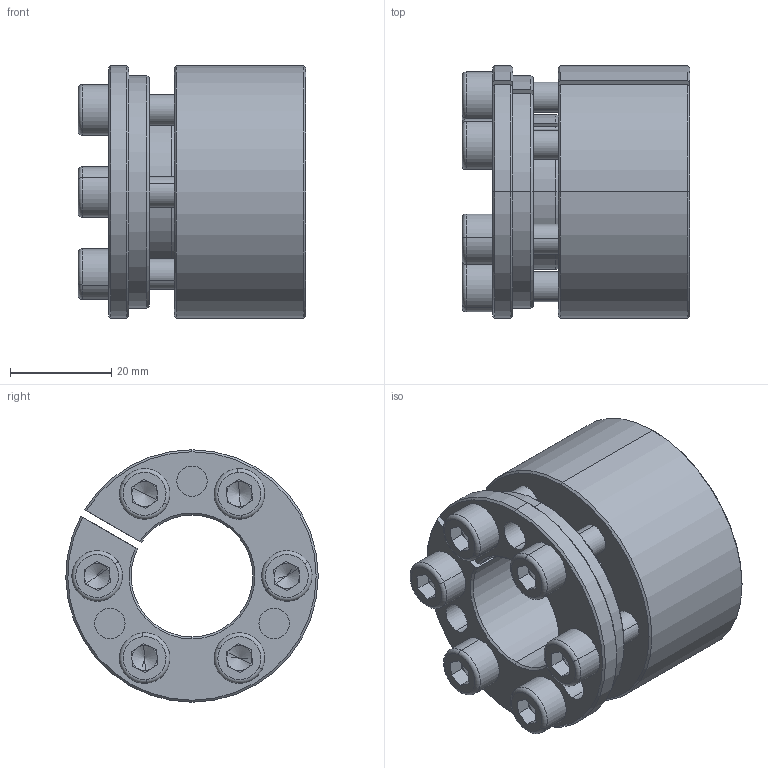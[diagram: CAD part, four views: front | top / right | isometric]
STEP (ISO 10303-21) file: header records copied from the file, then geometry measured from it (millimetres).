
FILE_DESCRIPTION (( 'STEP AP214' ), '1' );
FILE_NAME ('PL-H2 24-50.STEP', '2022-07-25T01:51:30', ( '' ), ( '' ), 'SwSTEP 2.0', 'SolidWorks 2022', '' );
FILE_SCHEMA (( 'AUTOMOTIVE_DESIGN' ));
Length unit declared in the file: millimetre
Products named in the file (1): PL-H2 24-50
Bounding box: 45 x 49.91 x 49.92 mm (x, y, z)
Volume: 49910.5 mm3; surface area: 20249.5 mm2
Topology: 1 solids, 1 shells, 239 faces, 587 edges, 362 vertices
Faces by surface type: plane 98, cylinder 69, cone 60, torus 12
Entity records: 7084 total; most frequent: DIRECTION 1304, CARTESIAN_POINT 1249, ORIENTED_EDGE 1150, EDGE_CURVE 575, AXIS2_PLACEMENT_3D 513, VERTEX_POINT 362, EDGE_LOOP 281, VECTOR 278
